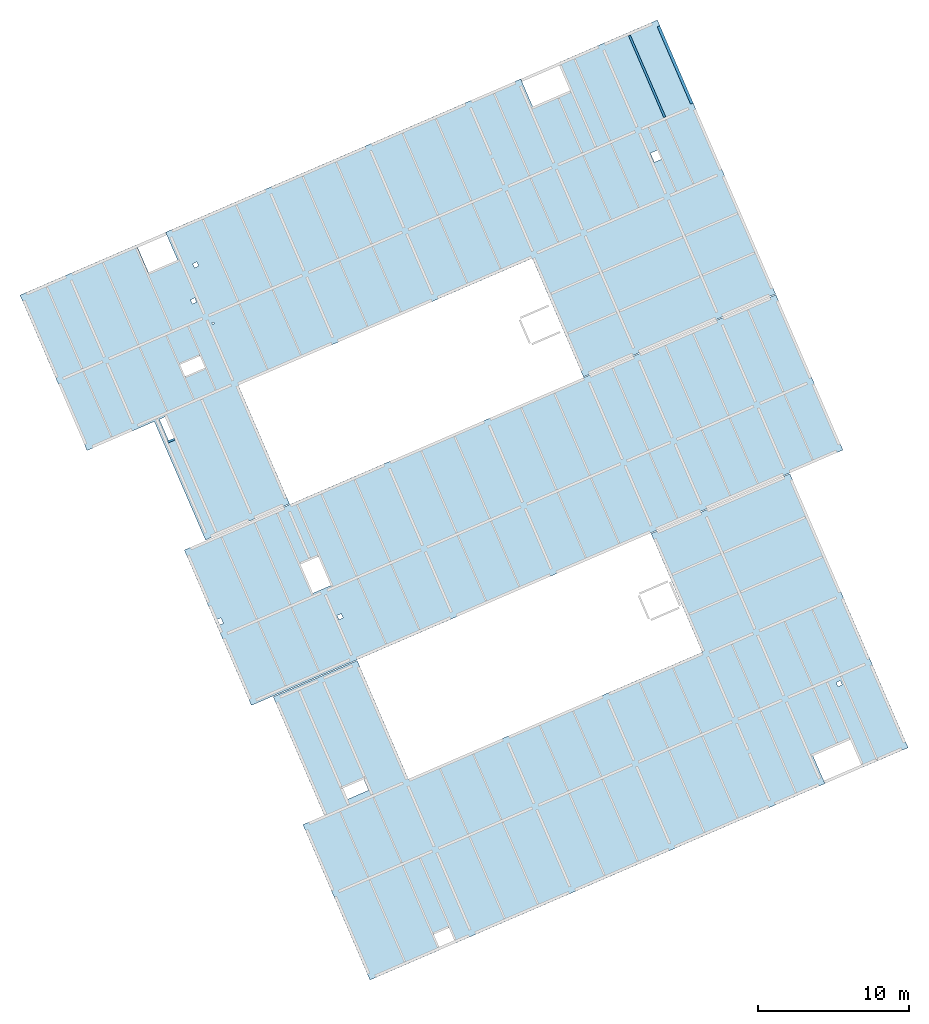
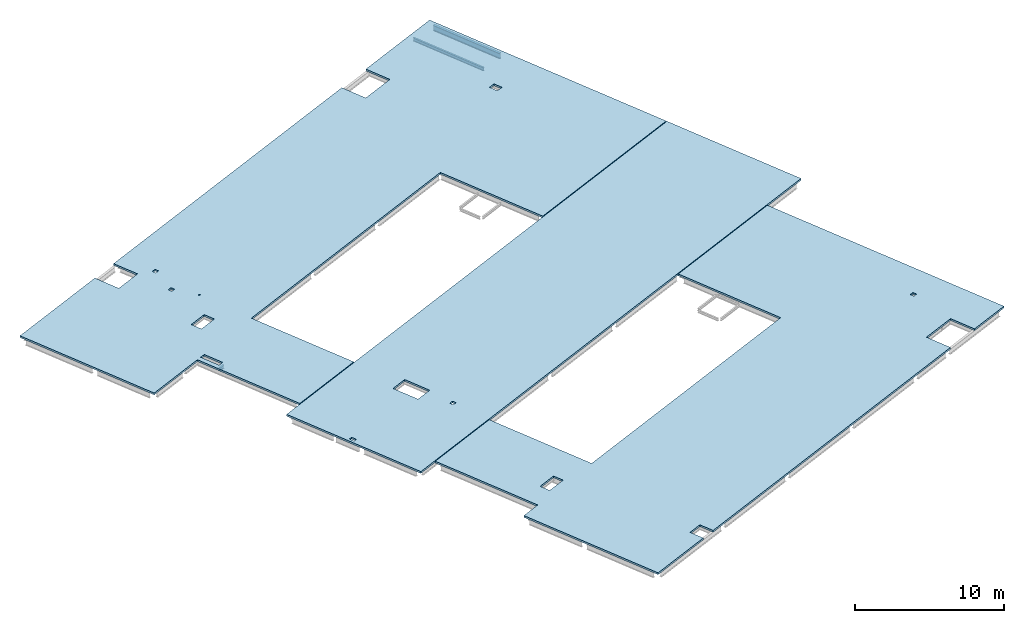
# One storey, part 15 of 15: 3 beams, 3 slabs, 11 openings.
"""IFC4 building model written with IfcOpenShell, lengths in metres."""

from ifc_helpers import new_model, entity, si_unit, converted_unit, derived_unit, direction, frame, origin, place, context, subcontext, project, spatial, line, arc, indexed_curve, outline, extrude, source, transform, mapped, material, constituent, constituent_set, type_object, type_shapes, element, save


model = new_model("IFC4")

# Units and contexts
model_context = context("Model", 3, precision=1e-05, world=origin(), true_north=direction((6.12323399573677e-17, 1.0)))
body_context = subcontext(model_context, "Body", "Model", "MODEL_VIEW")
ifc_project = project(units=[si_unit("LENGTHUNIT", "METRE"), si_unit("AREAUNIT", "SQUARE_METRE"), si_unit("VOLUMEUNIT", "CUBIC_METRE"), converted_unit("PLANEANGLEUNIT", "DEGREE", entity("IfcPlaneAngleMeasure", 0.0174532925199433), si_unit("PLANEANGLEUNIT", "RADIAN"), dimensions=[0, 0, 0, 0, 0, 0, 0]), si_unit("MASSUNIT", "GRAM", prefix="KILO"), derived_unit("MOMENTOFINERTIAUNIT", [(si_unit("LENGTHUNIT", "METRE"), 4)]), derived_unit("LINEARFORCEUNIT", [(si_unit("MASSUNIT", "GRAM", prefix="KILO"), 1), (si_unit("TIMEUNIT", "SECOND"), -2)]), derived_unit("WARPINGCONSTANTUNIT", [(si_unit("LENGTHUNIT", "METRE"), 6)]), derived_unit("THERMALTRANSMITTANCEUNIT", [(si_unit("MASSUNIT", "GRAM", prefix="KILO"), 1), (si_unit("THERMODYNAMICTEMPERATUREUNIT", "KELVIN"), -1), (si_unit("TIMEUNIT", "SECOND"), -3)]), derived_unit("USERDEFINED", [(si_unit("MASSUNIT", "GRAM", prefix="KILO"), 1), (si_unit("TIMEUNIT", "SECOND"), -2), (si_unit("THERMODYNAMICTEMPERATUREUNIT", "KELVIN"), -1)]), derived_unit("THERMALRESISTANCEUNIT", [(si_unit("MASSUNIT", "GRAM", prefix="KILO"), -1), (si_unit("TIMEUNIT", "SECOND"), 3), (si_unit("THERMODYNAMICTEMPERATUREUNIT", "KELVIN"), 1)])], contexts=[model_context])

# Site, building, storey
site_placement = place(None, origin())
site = spatial("IfcSite", under=ifc_project, at=site_placement, Name="Default", CompositionType="ELEMENT")
building_placement = place(site_placement, frame((12.6613425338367, -82.5732315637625, 317.15), z_axis=(0.0, 0.0, 1.0), x_axis=(-0.396377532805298, 0.918087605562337, 0.0)))
building = spatial("IfcBuilding", under=site, at=building_placement, Name="CESFAM Coyhaique", CompositionType="ELEMENT")
storey_placement = place(building_placement, frame((0.0, 0.0, 8.45000000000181)))
storey = spatial("IfcBuildingStorey", under=building, at=storey_placement, Name="Nivel 3", CompositionType="ELEMENT", Elevation=8.45000000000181)

# Beams
ifc_material_1 = material(Name="Steel, 45-345", Category="Metal")
beam_type_1 = type_object("IfcBeamType", Name="M_W Shapes:W450X190mm", PredefinedType="BEAM", material=ifc_material_1)
shared_shape_1 = source(origin(), body_context, "Body", "SweptSolid", [
    extrude(outline(indexed_curve([(-0.224999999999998, -0.0949999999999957), (-0.215349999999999, -0.0949999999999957), (-0.215349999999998, -0.0105699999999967), (-0.213109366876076, -0.00516063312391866), (-0.207699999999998, -0.00291999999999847), (0.207700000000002, -0.00291999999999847), (0.21310936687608, -0.00516063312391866), (0.215350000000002, -0.0105699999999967), (0.215350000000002, -0.0949999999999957), (0.225000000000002, -0.0949999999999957), (0.225000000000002, 0.0950000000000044), (0.215350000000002, 0.0950000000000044), (0.215350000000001, 0.0105700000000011), (0.21310936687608, 0.00516063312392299), (0.207700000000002, 0.0029200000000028), (-0.207699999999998, 0.0029200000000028), (-0.213109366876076, 0.00516063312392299), (-0.215349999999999, 0.0105700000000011), (-0.215349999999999, 0.0950000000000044), (-0.224999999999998, 0.0950000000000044)], segments=[line(1, 2, 3), arc(3, 4, 5), line(5, 6), arc(6, 7, 8), line(8, 9, 10, 11, 12, 13), arc(13, 14, 15), line(15, 16), arc(16, 17, 18), line(18, 19, 20, 1)], self_intersect=False)), frame((48.7815534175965, -25.1521495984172, 8.07500000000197), z_axis=(1.0, 0.0, 0.0), x_axis=(0.0, 0.0, -1.0)), (0.0, 0.0, 1.0), 5.5746),
])
type_shapes(beam_type_1, [shared_shape_1])
beam_1_placement = place(storey_placement, frame((0.0, 0.0, -8.45000000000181)))
element("IfcBeam", 1, at=beam_1_placement, inside=storey, type_object=beam_type_1, Name="M_W Shapes:W450X190mm", ObjectType="M_W Shapes:W450X190mm", PredefinedType="BEAM", context=body_context, shape_type="MappedRepresentation", body=[
    mapped(shared_shape_1, transform((0.0, 0.0, 0.0), scale=1.0)),
])
beam_type_2 = type_object("IfcBeamType", Name="M_W Shapes:W270X140mm", PredefinedType="BEAM", material=ifc_material_1)
shared_shape_2 = source(origin(), body_context, "Body", "SweptSolid", [
    extrude(outline(indexed_curve([(-0.135, -0.0699999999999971), (-0.125350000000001, -0.0699999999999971), (-0.12535, -0.0105699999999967), (-0.123109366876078, -0.00516063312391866), (-0.1177, -0.00291999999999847), (0.117699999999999, -0.00291999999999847), (0.123109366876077, -0.00516063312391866), (0.12535, -0.0105699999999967), (0.12535, -0.0699999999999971), (0.135, -0.0699999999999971), (0.135, 0.0700000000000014), (0.12535, 0.0700000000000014), (0.125349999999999, 0.0105700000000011), (0.123109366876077, 0.00516063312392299), (0.117699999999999, 0.0029200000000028), (-0.1177, 0.0029200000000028), (-0.123109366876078, 0.00516063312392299), (-0.125350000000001, 0.0105700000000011), (-0.125350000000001, 0.0700000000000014), (-0.135, 0.0700000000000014)], segments=[line(1, 2, 3), arc(3, 4, 5), line(5, 6), arc(6, 7, 8), line(8, 9, 10, 11, 12, 13), arc(13, 14, 15), line(15, 16), arc(16, 17, 18), line(18, 19, 20, 1)], self_intersect=False)), frame((48.6765534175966, -23.1471495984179, 8.16500000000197), z_axis=(1.0, 0.0, 0.0), x_axis=(0.0, 0.0, -1.0)), (0.0, 0.0, 1.0), 5.88460000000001),
])
type_shapes(beam_type_2, [shared_shape_2])
beam_2_placement = place(storey_placement, frame((0.0, 0.0, -8.45000000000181)))
element("IfcBeam", 2, at=beam_2_placement, inside=storey, type_object=beam_type_2, Name="M_W Shapes:W270X140mm", ObjectType="M_W Shapes:W270X140mm", PredefinedType="BEAM", context=body_context, shape_type="MappedRepresentation", body=[
    mapped(shared_shape_2, transform((0.0, 0.0, 0.0), scale=1.0)),
])
beam_type_3 = type_object("IfcBeamType", Name="M_W Shapes:W270X140mm", PredefinedType="BEAM", material=ifc_material_1)
shared_shape_3 = source(origin(), body_context, "Body", "SweptSolid", [
    extrude(outline(indexed_curve([(-0.0699999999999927, -0.135), (0.0700000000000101, -0.135), (0.0700000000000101, -0.12535), (0.0105700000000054, -0.12535), (0.00516063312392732, -0.123109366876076), (0.00292000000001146, -0.117699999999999), (0.0029200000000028, 0.1177), (0.00516063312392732, 0.123109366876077), (0.0105700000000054, 0.125350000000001), (0.0700000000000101, 0.125350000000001), (0.0700000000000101, 0.135), (-0.0699999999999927, 0.135), (-0.0699999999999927, 0.125350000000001), (-0.0105699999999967, 0.125350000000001), (-0.00516063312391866, 0.123109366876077), (-0.00291999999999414, 0.1177), (-0.00291999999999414, -0.117699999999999), (-0.00516063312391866, -0.123109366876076), (-0.0105699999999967, -0.12535), (-0.0699999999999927, -0.12535)], segments=[line(1, 2, 3, 4), arc(4, 5, 6), line(6, 7), arc(7, 8, 9), line(9, 10, 11, 12, 13, 14), arc(14, 15, 16), line(16, 17), arc(17, 18, 19), line(19, 20, 1)], self_intersect=False)), frame((41.9631107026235, 15.0909182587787, 8.16500000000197), z_axis=(0.0, 1.0, 0.0), x_axis=(-1.0, 0.0, 0.0)), (0.0, 0.0, 1.0), 0.466899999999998),
])
type_shapes(beam_type_3, [shared_shape_3])
beam_3_placement = place(storey_placement, frame((0.0, 0.0, -8.45000000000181)))
element("IfcBeam", 3, at=beam_3_placement, inside=storey, type_object=beam_type_3, Name="M_W Shapes:W270X140mm", ObjectType="M_W Shapes:W270X140mm", PredefinedType="BEAM", context=body_context, shape_type="MappedRepresentation", body=[
    mapped(shared_shape_3, transform((0.0, 0.0, 0.0), scale=1.0)),
])

# Slab, openings
ifc_material_2 = material(Name="HA")
ifc_constituent = constituent(ifc_material_2, Name="HA", fraction=1.0)
ifc_constituent_set = constituent_set(constituents=[ifc_constituent], Name="Floor:Losa colaborante 150mm")
slab_type = type_object("IfcSlabType", Name="Floor:Losa colaborante 150mm", PredefinedType="FLOOR", material=ifc_constituent_set)
slab_1_placement = place(storey_placement, origin())
slab_1 = element("IfcSlab", 4, at=slab_1_placement, inside=storey, type_object=slab_type, material=ifc_constituent_set, Name="Floor:Losa colaborante 150mm", ObjectType="Floor:Losa colaborante 150mm", PredefinedType="FLOOR", context=body_context, shape_type="SweptSolid", body=[
    extrude(outline(indexed_curve([(-12.2986002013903, 2.67860000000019), (-12.2986002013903, 11.2286000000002), (-22.2986006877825, 11.2286000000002), (-22.2986006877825, -8.52140000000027), (-18.99860020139, -8.52140000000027), (-18.99860020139, -6.51640000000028), (-16.2986002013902, -6.51640000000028), (-16.2986002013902, -8.52140000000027), (10.3313997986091, -8.52140000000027), (10.3313997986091, -7.41640000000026), (11.4313997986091, -7.41640000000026), (11.4313997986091, -8.52140000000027), (16.5013997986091, -8.52140000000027), (16.5013997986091, 2.67859999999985), (14.95139979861, 2.67859999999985), (14.95139979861, 11.2286000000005), (8.90139979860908, 11.2286000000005), (8.90139979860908, 2.67860000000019), (-12.2986002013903, 2.67860000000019)], self_intersect=False), holes=[indexed_curve([(11.6109349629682, 3.0445867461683), (11.6109349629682, 3.8445867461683), (13.1109349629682, 3.8445867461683), (13.1109349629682, 3.0445867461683), (11.6109349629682, 3.0445867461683)], self_intersect=False), indexed_curve([(-19.6386418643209, -2.67488905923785), (-19.6386418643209, -2.97488905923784), (-19.9386418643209, -2.97488905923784), (-19.9386418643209, -2.67488905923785), (-19.6386418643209, -2.67488905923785)], self_intersect=False)]), frame((12.4902534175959, 0.901450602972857, -0.150000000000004), z_axis=(0.0, 0.0, -1.0), x_axis=(0.0, 1.0, 0.0)), (0.0, 0.0, -1.0), 0.150000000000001),
])
opening_1_placement = place(slab_1_placement, origin())
element("IfcOpeningElement", 5, at=opening_1_placement, cuts=slab_1, Name="Floor:Losa colaborante 150mm", PredefinedType="OPENING", context=body_context, shape_type="SweptSolid", body=[
    extrude(outline(indexed_curve([(15.5348401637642, 12.5123855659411), (16.3348401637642, 12.5123855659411), (16.3348401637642, 14.0123855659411), (15.5348401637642, 14.0123855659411), (15.5348401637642, 12.5123855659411)], self_intersect=False)), origin(), (0.0, 0.0, -1.0), 0.150000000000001),
])
opening_2_placement = place(slab_1_placement, origin())
element("IfcOpeningElement", 6, at=opening_2_placement, cuts=slab_1, Name="Floor:Losa colaborante 150mm", PredefinedType="OPENING", context=body_context, shape_type="SweptSolid", body=[
    extrude(outline(indexed_curve([(9.81536435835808, -18.737191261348), (9.51536435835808, -18.737191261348), (9.51536435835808, -19.037191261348), (9.81536435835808, -19.037191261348), (9.81536435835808, -18.737191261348)], self_intersect=False)), origin(), (0.0, 0.0, -1.0), 0.150000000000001),
])

slab_2_placement = place(storey_placement, origin())
slab_2 = element("IfcSlab", 7, at=slab_2_placement, inside=storey, type_object=slab_type, material=ifc_constituent_set, Name="Floor:Losa colaborante 150mm", ObjectType="Floor:Losa colaborante 150mm", PredefinedType="FLOOR", context=body_context, shape_type="SweptSolid", body=[
    extrude(outline(indexed_curve([(-5.66000000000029, -22.9299999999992), (5.54000000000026, -22.9299999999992), (5.54000000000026, 19.7199999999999), (-5.66000000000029, 19.7199999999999), (-5.66000000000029, -22.9299999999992)], self_intersect=False), holes=[indexed_curve([(-0.577313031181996, -22.7299999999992), (-0.577313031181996, -22.4799999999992), (-0.177313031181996, -22.4799999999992), (-0.177313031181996, -22.7299999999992), (-0.577313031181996, -22.7299999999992)], self_intersect=False), indexed_curve([(0.340000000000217, -14.9527999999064), (0.340000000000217, -15.3299999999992), (0.340000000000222, -15.7299999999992), (0.340000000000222, -16.2527999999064), (-1.74703902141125, -16.2527999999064), (-1.74703902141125, -14.9527999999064), (0.340000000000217, -14.9527999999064)], self_intersect=False), indexed_curve([(2.32654216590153, -15.3654714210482), (2.32654216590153, -15.0654714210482), (2.62654216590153, -15.0654714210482), (2.62654216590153, -15.3654714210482), (2.32654216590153, -15.3654714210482)], self_intersect=False)]), frame((29.3088534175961, -5.52714959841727, -0.149999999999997), z_axis=(0.0, 0.0, 1.0), x_axis=(-1.0, 0.0, 0.0)), (0.0, 0.0, 1.0), 0.150000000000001),
])
opening_3_placement = place(slab_2_placement, origin())
element("IfcOpeningElement", 8, at=opening_3_placement, cuts=slab_2, Name="Floor:Losa colaborante 150mm", PredefinedType="OPENING", context=body_context, shape_type="SweptSolid", body=[
    extrude(outline(indexed_curve([(29.8861664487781, 17.2028504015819), (29.4861664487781, 17.2028504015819), (29.4861664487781, 16.9528504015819), (29.8861664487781, 16.9528504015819), (29.8861664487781, 17.2028504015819)], self_intersect=False)), frame((0.0, 0.0, -8.45000000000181)), (0.0, 0.0, 1.0), 42.6499999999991),
])
opening_4_placement = place(slab_2_placement, origin())
element("IfcOpeningElement", 9, at=opening_4_placement, cuts=slab_2, Name="Floor:Losa colaborante 150mm", PredefinedType="OPENING", context=body_context, shape_type="SweptSolid", body=[
    extrude(outline(indexed_curve([(28.9688534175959, 9.42565040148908), (31.0558924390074, 9.42565040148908), (31.0558924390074, 10.7256504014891), (28.9688534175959, 10.7256504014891), (28.9688534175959, 9.42565040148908)], self_intersect=False)), frame((0.0, 0.0, -8.45000000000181)), (0.0, 0.0, 1.0), 42.6499999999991),
])
opening_5_placement = place(slab_2_placement, origin())
element("IfcOpeningElement", 10, at=opening_5_placement, cuts=slab_2, Name="Floor:Losa colaborante 150mm", PredefinedType="OPENING", context=body_context, shape_type="SweptSolid", body=[
    extrude(outline(indexed_curve([(26.9823112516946, 9.83832182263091), (26.6823112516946, 9.83832182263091), (26.6823112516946, 9.53832182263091), (26.9823112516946, 9.53832182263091), (26.9823112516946, 9.83832182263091)], self_intersect=False)), frame((0.0, 0.0, -8.45000000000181)), (0.0, 0.0, 1.0), 42.6499999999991),
])

slab_3_placement = place(storey_placement, origin())
slab_3 = element("IfcSlab", 11, at=slab_3_placement, inside=storey, type_object=slab_type, material=ifc_constituent_set, Name="Floor:Losa colaborante 150mm", ObjectType="Floor:Losa colaborante 150mm", PredefinedType="FLOOR", context=body_context, shape_type="SweptSolid", body=[
    extrude(outline(indexed_curve([(-21.4310344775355, -8.29655172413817), (-14.2810344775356, -8.29655172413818), (-14.2810344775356, -6.29655172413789), (-11.5810344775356, -6.29655172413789), (-11.5810344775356, -8.29655172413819), (14.0189655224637, -8.29655172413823), (14.0189655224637, -6.29655172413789), (16.1189655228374, -6.29655172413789), (16.1189655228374, -8.29655172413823), (24.5189655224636, -8.29655172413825), (24.5189655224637, 2.90344827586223), (19.6689655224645, 2.90344827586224), (19.6689655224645, 11.4534482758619), (13.6189655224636, 11.4534482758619), (13.6189655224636, 2.90344827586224), (-7.58103447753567, 2.90344827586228), (-7.58103447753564, 11.4534482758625), (-21.4310344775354, 11.4534482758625), (-21.4310344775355, -8.29655172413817)], self_intersect=False), holes=[indexed_curve([(19.3070024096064, 2.90344827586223), (18.9070024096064, 2.90344827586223), (18.9070024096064, 4.43919294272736), (19.3070024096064, 4.43919294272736), (19.3070024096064, 2.90344827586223)], self_intersect=False), indexed_curve([(-18.0175143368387, -0.387274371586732), (-18.0175143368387, 0.272725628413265), (-17.5175143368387, 0.272725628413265), (-17.5175143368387, -0.387274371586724), (-18.0175143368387, -0.387274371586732)], self_intersect=False), indexed_curve([(16.6239664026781, 0.122705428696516), (15.1739664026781, 0.122705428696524), (15.1739664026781, 0.972705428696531), (16.6239664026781, 0.972705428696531), (16.6239664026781, 0.122705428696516)], self_intersect=False), indexed_curve([(14.2748982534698, -3.53978006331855), (13.9748982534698, -3.53978006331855), (13.9748982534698, -3.23978006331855), (14.2748982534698, -3.23978006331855), (14.2748982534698, -3.53978006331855)], self_intersect=False), indexed_curve([(13.1941990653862, -5.67708688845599), (12.8941990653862, -5.67708688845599), (12.8941990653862, -5.37708688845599), (13.1941990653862, -5.37708688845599), (13.1941990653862, -5.67708688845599)], self_intersect=False), indexed_curve([(13.5771237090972, -1.58010206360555), (13.4671237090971, -1.58010206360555), (13.4671237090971, -1.47010206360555), (13.5771237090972, -1.47010206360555), (13.5771237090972, -1.58010206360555)], self_intersect=False)]), frame((46.4723016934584, -3.81611512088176, -0.150000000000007), z_axis=(0.0, 0.0, 1.0), x_axis=(0.0, 1.0, 0.0)), (0.0, 0.0, 1.0), 0.150000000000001),
])
opening_6_placement = place(slab_3_placement, origin())
element("IfcOpeningElement", 12, at=opening_6_placement, cuts=slab_3, Name="Floor:Losa colaborante 150mm", PredefinedType="OPENING", context=body_context, shape_type="SweptSolid", body=[
    extrude(outline(indexed_curve([(43.5688534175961, 15.4908872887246), (42.033108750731, 15.4908872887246), (42.033108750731, 15.0908872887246), (43.5688534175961, 15.0908872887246), (43.5688534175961, 15.4908872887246)], self_intersect=False)), origin(), (0.0, 0.0, -1.0), 0.150000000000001),
])
opening_7_placement = place(slab_3_placement, origin())
element("IfcOpeningElement", 13, at=opening_7_placement, cuts=slab_3, Name="Floor:Losa colaborante 150mm", PredefinedType="OPENING", context=body_context, shape_type="SweptSolid", body=[
    extrude(outline(indexed_curve([(48.0524037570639, 9.76100858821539), (47.9424037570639, 9.76100858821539), (47.9424037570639, 9.65100858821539), (48.0524037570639, 9.65100858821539), (48.0524037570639, 9.76100858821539)], self_intersect=False)), origin(), (0.0, 0.0, -1.0), 0.150000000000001),
])
opening_8_placement = place(slab_3_placement, origin())
element("IfcOpeningElement", 14, at=opening_8_placement, cuts=slab_3, Name="Floor:Losa colaborante 150mm", PredefinedType="OPENING", context=body_context, shape_type="SweptSolid", body=[
    extrude(outline(indexed_curve([(46.8595760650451, -21.8336294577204), (46.8595760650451, -21.3336294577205), (46.1995760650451, -21.3336294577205), (46.1995760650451, -21.8336294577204), (46.8595760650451, -21.8336294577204)], self_intersect=False)), origin(), (0.0, 0.0, -1.0), 0.150000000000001),
])
opening_9_placement = place(slab_3_placement, origin())
element("IfcOpeningElement", 15, at=opening_9_placement, cuts=slab_3, Name="Floor:Losa colaborante 150mm", PredefinedType="OPENING", context=body_context, shape_type="SweptSolid", body=[
    extrude(outline(indexed_curve([(46.3495962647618, 12.8078512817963), (45.4995962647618, 12.8078512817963), (45.4995962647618, 11.3578512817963), (46.3495962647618, 11.3578512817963), (46.3495962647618, 12.8078512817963)], self_intersect=False)), origin(), (0.0, 0.0, -1.0), 0.150000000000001),
])
opening_10_placement = place(slab_3_placement, origin())
element("IfcOpeningElement", 16, at=opening_10_placement, cuts=slab_3, Name="Floor:Losa colaborante 150mm", PredefinedType="OPENING", context=body_context, shape_type="SweptSolid", body=[
    extrude(outline(indexed_curve([(50.0120817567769, 10.458783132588), (49.7120817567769, 10.458783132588), (49.7120817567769, 10.158783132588), (50.0120817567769, 10.158783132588), (50.0120817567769, 10.458783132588)], self_intersect=False)), origin(), (0.0, 0.0, -1.0), 0.150000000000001),
])
opening_11_placement = place(slab_3_placement, origin())
element("IfcOpeningElement", 17, at=opening_11_placement, cuts=slab_3, Name="Floor:Losa colaborante 150mm", PredefinedType="OPENING", context=body_context, shape_type="SweptSolid", body=[
    extrude(outline(indexed_curve([(52.1493885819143, 9.37808394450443), (51.8493885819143, 9.37808394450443), (51.8493885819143, 9.07808394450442), (52.1493885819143, 9.07808394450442), (52.1493885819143, 9.37808394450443)], self_intersect=False)), origin(), (0.0, 0.0, -1.0), 0.150000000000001),
])

save(model, "model.ifc")
